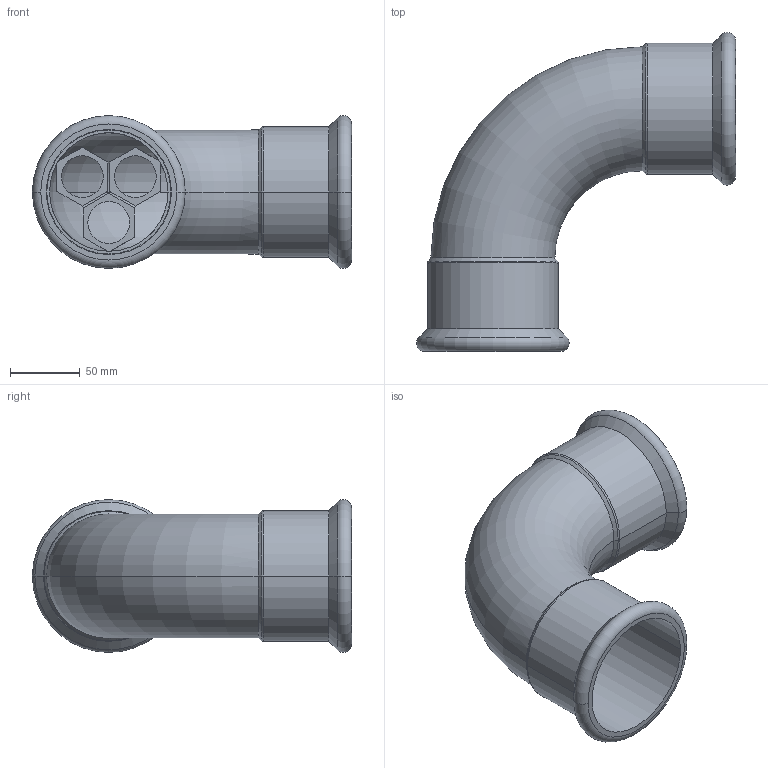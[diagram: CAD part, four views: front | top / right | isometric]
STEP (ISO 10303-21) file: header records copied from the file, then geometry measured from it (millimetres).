
FILE_DESCRIPTION(('OneSpaceDesigner STEP Export'),'2;1');
FILE_NAME('R2708 89x89.stp','2010-06-09T14:40:57',(''),(''),'OneSpace Designer STEP processor for AP214 (Solid Model)','OneSpace Modeling 15.00A 14-Mar-2007 (C) CoCreate Software GmbH','');
FILE_SCHEMA(('AUTOMOTIVE_DESIGN { 1 0 10303 214 1 1 1 1 }'));
Length unit declared in the file: millimetre
Products named in the file (2): R2708_89x89
Assembly tree (1 placements, depth 2):
  R2708_89x89
    R2708_89x89
Bounding box: 228.74 x 228.74 x 109.48 mm (x, y, z)
Volume: 239320.1 mm3; surface area: 189248.2 mm2
Topology: 1 solids, 1 shells, 114 faces, 290 edges, 182 vertices
Faces by surface type: plane 60, cylinder 34, torus 12, cone 8
Entity records: 3789 total; most frequent: CARTESIAN_POINT 1266, ORIENTED_EDGE 580, DIRECTION 436, EDGE_CURVE 290, VERTEX_POINT 182, VECTOR 174, LINE 174, EDGE_LOOP 132
